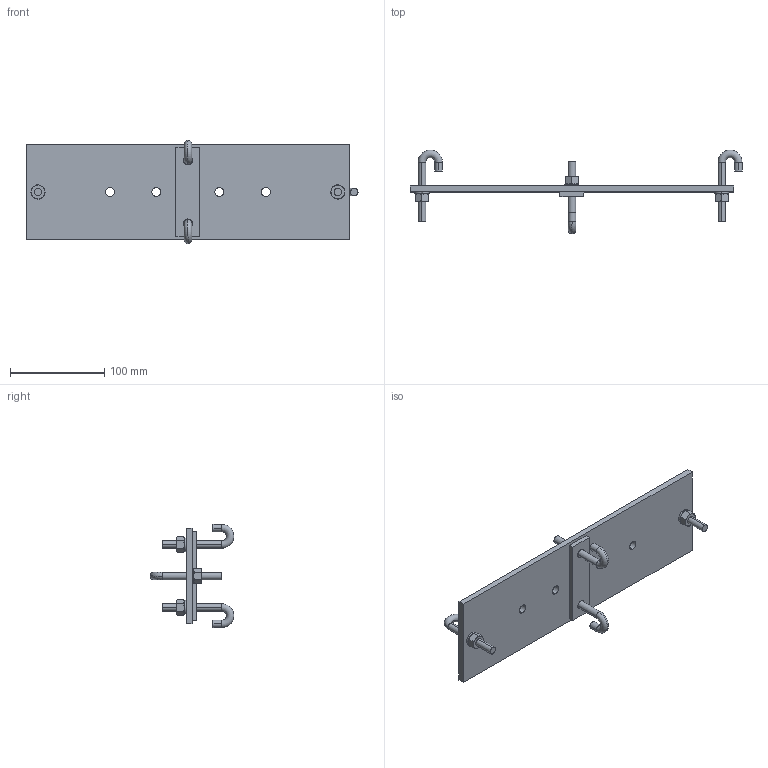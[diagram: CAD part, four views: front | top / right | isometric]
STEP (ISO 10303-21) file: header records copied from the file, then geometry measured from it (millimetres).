
FILE_DESCRIPTION (( 'STEP AP203' ), '1' );
FILE_NAME ('lrrmpblk.STEP', '2008-10-02T18:52:40', ( '' ), ( '' ), 'SwSTEP 2.0', 'SolidWorks 2007', '' );
FILE_SCHEMA (( 'CONFIG_CONTROL_DESIGN' ));
Length unit declared in the file: inch
Products named in the file (6): Hook; MountingPlate_12inWide; lrrmpblk; Nut.31; WasherLock.31; FlatBar
Assembly tree (14 placements, depth 2):
  lrrmpblk
    FlatBar
    Hook  x4
    WasherLock.31  x4
    MountingPlate_12inWide
    Nut.31  x4
Bounding box: 351.63 x 88.71 x 109.51 mm (x, y, z)
Volume: 253781.8 mm3; surface area: 96909.3 mm2
Topology: 14 solids, 14 shells, 200 faces, 444 edges, 272 vertices
Faces by surface type: plane 68, cone 64, cylinder 60, torus 8
Entity records: 3190 total; most frequent: CARTESIAN_POINT 503, DIRECTION 412, ORIENTED_EDGE 348, EDGE_CURVE 174, AXIS2_PLACEMENT_3D 171, VERTEX_POINT 110, EDGE_LOOP 96, CIRCLE 80
